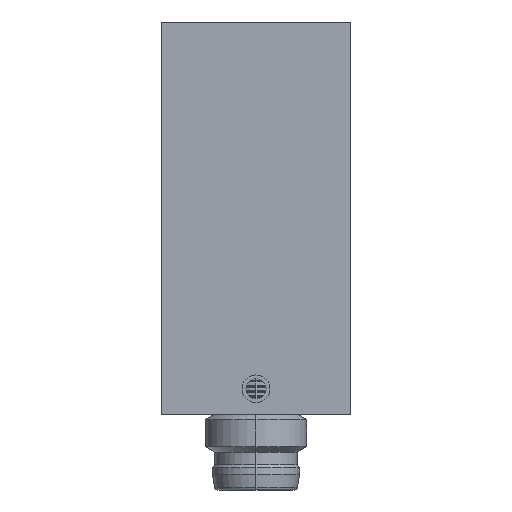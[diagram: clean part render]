
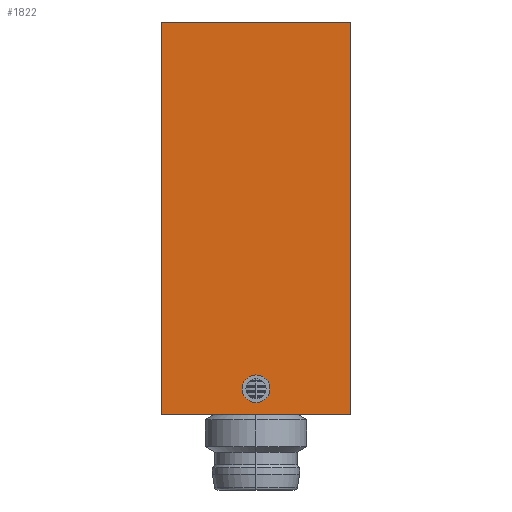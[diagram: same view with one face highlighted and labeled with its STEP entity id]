
A CAD part, left-side view. The second image highlights one B-rep face of the part: STEP entity #1822.
In plain terms, the highlighted planar face has unit normal (-1, 0, 0).
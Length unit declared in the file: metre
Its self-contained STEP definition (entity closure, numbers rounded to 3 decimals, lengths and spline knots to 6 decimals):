
#1822=ADVANCED_FACE('8:8876',(#3504,#3505),#3506,.T.);
#3504=FACE_OUTER_BOUND('',#4350,.T.);
#3505=FACE_BOUND('',#4351,.T.);
#3506=PLANE('',#4352);
#4350=EDGE_LOOP('',(#5688,#5689,#5690,#5691));
#4351=EDGE_LOOP('',(#5692,#5693));
#4352=AXIS2_PLACEMENT_3D('',#5694,#5695,#5696);
#5688=ORIENTED_EDGE('',*,*,#7465,.F.);
#5689=ORIENTED_EDGE('',*,*,#7491,.T.);
#5690=ORIENTED_EDGE('',*,*,#7492,.F.);
#5691=ORIENTED_EDGE('',*,*,#7493,.F.);
#5692=ORIENTED_EDGE('',*,*,#7494,.T.);
#5693=ORIENTED_EDGE('',*,*,#7435,.T.);
#5694=CARTESIAN_POINT('',(-0.0645,0.0055,0.0155));
#5695=DIRECTION('',(-1.0,0.,0.0));
#5696=DIRECTION('',(0.0,0.0,1.0));
#7435=EDGE_CURVE('8:9599',#8769,#8773,#8775,.T.);
#7465=EDGE_CURVE('8:9512',#8831,#8827,#8833,.T.);
#7491=EDGE_CURVE('8:9590',#8831,#8870,#8871,.T.);
#7492=EDGE_CURVE('8:9593',#8872,#8870,#8873,.T.);
#7493=EDGE_CURVE('8:9596',#8827,#8872,#8874,.T.);
#7494=EDGE_CURVE('8:9599',#8773,#8769,#8875,.T.);
#8769=VERTEX_POINT('',#9229);
#8773=VERTEX_POINT('',#9234);
#8775=CIRCLE('',#9237,0.0011);
#8827=VERTEX_POINT('',#9301);
#8831=VERTEX_POINT('',#9307);
#8833=LINE('',#9310,#9311);
#8870=VERTEX_POINT('',#9361);
#8871=LINE('',#9362,#9363);
#8872=VERTEX_POINT('',#9364);
#8873=LINE('',#9365,#9366);
#8874=LINE('',#9367,#9368);
#8875=CIRCLE('',#9369,0.0011);
#9229=CARTESIAN_POINT('',(-0.0645,0.0011,0.002));
#9234=CARTESIAN_POINT('',(-0.0645,-0.0011,0.002));
#9237=AXIS2_PLACEMENT_3D('',#9746,#9747,#9748);
#9301=CARTESIAN_POINT('',(-0.0645,-0.0075,0.0));
#9307=CARTESIAN_POINT('',(-0.0645,-0.0075,0.031));
#9310=CARTESIAN_POINT('',(-0.0645,-0.0075,0.0));
#9311=VECTOR('',#9806,1.0);
#9361=CARTESIAN_POINT('',(-0.0645,0.0075,0.031));
#9362=CARTESIAN_POINT('',(-0.0645,-0.0075,0.031));
#9363=VECTOR('',#9856,1.0);
#9364=CARTESIAN_POINT('',(-0.0645,0.0075,0.0));
#9365=CARTESIAN_POINT('',(-0.0645,0.0075,0.028));
#9366=VECTOR('',#9857,1.0);
#9367=CARTESIAN_POINT('',(-0.0645,0.0075,0.0));
#9368=VECTOR('',#9858,1.0);
#9369=AXIS2_PLACEMENT_3D('',#9859,#9860,#9861);
#9746=CARTESIAN_POINT('',(-0.0645,0.,0.002));
#9747=DIRECTION('',(1.0,0.,0.0));
#9748=DIRECTION('',(0.,1.0,0.0));
#9806=DIRECTION('',(0.,0.,-1.0));
#9856=DIRECTION('',(0.0,1.0,0.0));
#9857=DIRECTION('',(0.0,0.0,1.0));
#9858=DIRECTION('',(0.,1.0,0.0));
#9859=CARTESIAN_POINT('',(-0.0645,0.,0.002));
#9860=DIRECTION('',(1.0,0.,0.0));
#9861=DIRECTION('',(0.,1.0,0.0));
